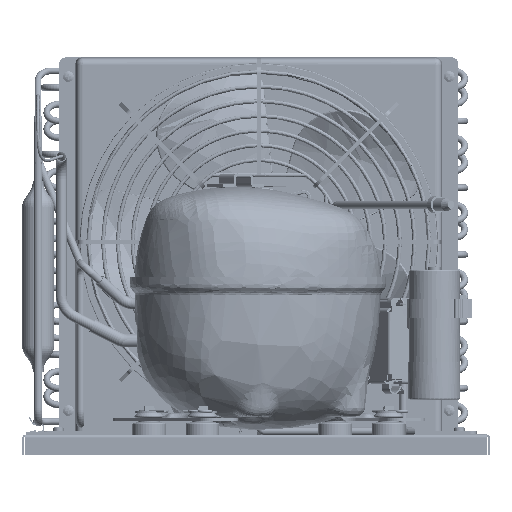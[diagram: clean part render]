
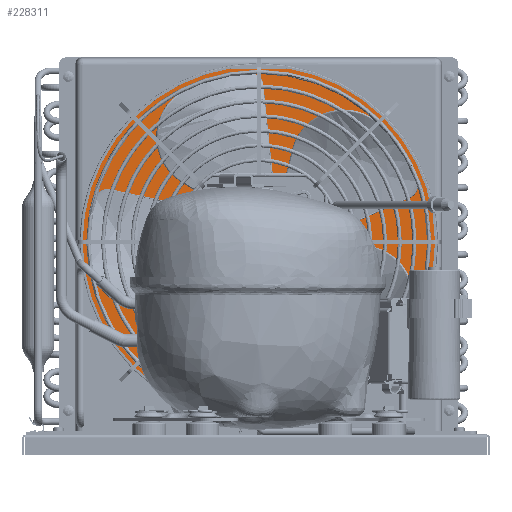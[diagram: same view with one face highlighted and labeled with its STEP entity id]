
A CAD part, front view. The second image highlights one B-rep face of the part: STEP entity #228311.
In plain terms, the highlighted planar face has unit normal (0, -1, 0) as drawn and (-1, 0, 0) by its records, which use the part's own axes.
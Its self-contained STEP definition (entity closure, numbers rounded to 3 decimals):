
#42051=ORIENTED_EDGE('',*,*,#105738,.T.);
#42052=ORIENTED_EDGE('',*,*,#105739,.F.);
#42053=ORIENTED_EDGE('',*,*,#105740,.F.);
#42054=ORIENTED_EDGE('',*,*,#105741,.T.);
#105738=EDGE_CURVE('',#138871,#138872,#161289,.T.);
#105739=EDGE_CURVE('',#138873,#138872,#161290,.T.);
#105740=EDGE_CURVE('',#138874,#138873,#161291,.T.);
#105741=EDGE_CURVE('',#138874,#138871,#161292,.T.);
#138871=VERTEX_POINT('',#409909);
#138872=VERTEX_POINT('',#409910);
#138873=VERTEX_POINT('',#409912);
#138874=VERTEX_POINT('',#409914);
#161289=LINE('',#409908,#175802);
#161290=LINE('',#409911,#175803);
#161291=LINE('',#409913,#175804);
#161292=LINE('',#409915,#175805);
#175802=VECTOR('',#338631,1000.);
#175803=VECTOR('',#338632,1000.);
#175804=VECTOR('',#338633,1000.);
#175805=VECTOR('',#338634,1000.);
#190209=EDGE_LOOP('',(#42051,#42052,#42053,#42054));
#206437=FACE_BOUND('',#190209,.T.);
#220782=PLANE('',#311713);
#228311=ADVANCED_FACE('',(#206437),#220782,.F.);
#311713=AXIS2_PLACEMENT_3D('',#409907,#338629,#338630);
#338629=DIRECTION('',(1.,0.,0.));
#338630=DIRECTION('',(0.,0.,-1.));
#338631=DIRECTION('',(0.,0.,-1.));
#338632=DIRECTION('',(0.,1.,0.));
#338633=DIRECTION('',(0.,0.,-1.));
#338634=DIRECTION('',(0.,1.,0.));
#409907=CARTESIAN_POINT('',(-18.75,-135.,137.5));
#409908=CARTESIAN_POINT('',(-18.75,135.,137.5));
#409909=CARTESIAN_POINT('',(-18.75,135.,137.5));
#409910=CARTESIAN_POINT('',(-18.75,135.,-137.5));
#409911=CARTESIAN_POINT('',(-18.75,-135.,-137.5));
#409912=CARTESIAN_POINT('',(-18.75,-135.,-137.5));
#409913=CARTESIAN_POINT('',(-18.75,-135.,137.5));
#409914=CARTESIAN_POINT('',(-18.75,-135.,137.5));
#409915=CARTESIAN_POINT('',(-18.75,-135.,137.5));
